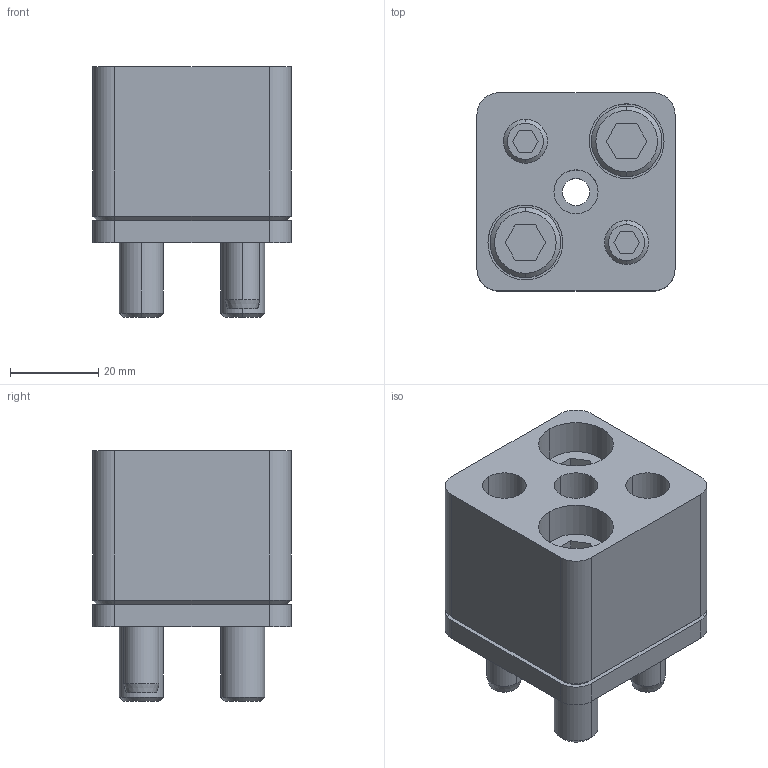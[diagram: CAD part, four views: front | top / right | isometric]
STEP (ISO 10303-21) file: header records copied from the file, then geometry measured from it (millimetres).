
FILE_DESCRIPTION(/* description */ (''),/* implementation_level */ '2;1');
FILE_NAME(/* name */ '3d_hsa-fp10_04186_r00.stp',/* time_stamp */ '2011-01-10T14:14:36+09:00',/* author */ ('MISUMI'),/* organization */ (''),/* preprocessor_version */ 'ST-DEVELOPER v11',/* originating_system */ 'UGS - NX 5.0',/* authorisation */ '');
FILE_SCHEMA (('CONFIG_CONTROL_DESIGN'));
Length unit declared in the file: millimetre
Products named in the file (1): 3d_hsa-fp10_04186_r00
Bounding box: 45 x 45 x 57 mm (x, y, z)
Volume: 72234.2 mm3; surface area: 27781.7 mm2
Topology: 8 solids, 8 shells, 167 faces, 380 edges, 243 vertices
Faces by surface type: plane 72, cylinder 65, cone 30
Entity records: 4856 total; most frequent: DIRECTION 866, CARTESIAN_POINT 850, ORIENTED_EDGE 760, EDGE_CURVE 380, AXIS2_PLACEMENT_3D 329, VERTEX_POINT 243, LINE 208, VECTOR 208
